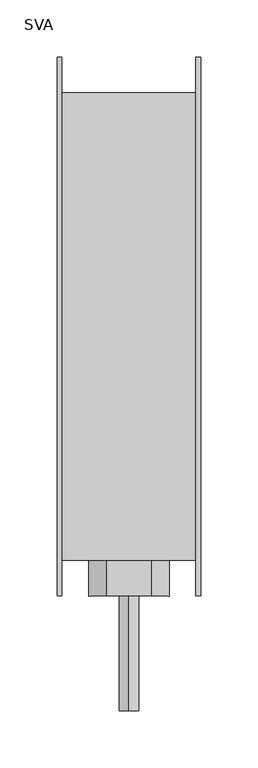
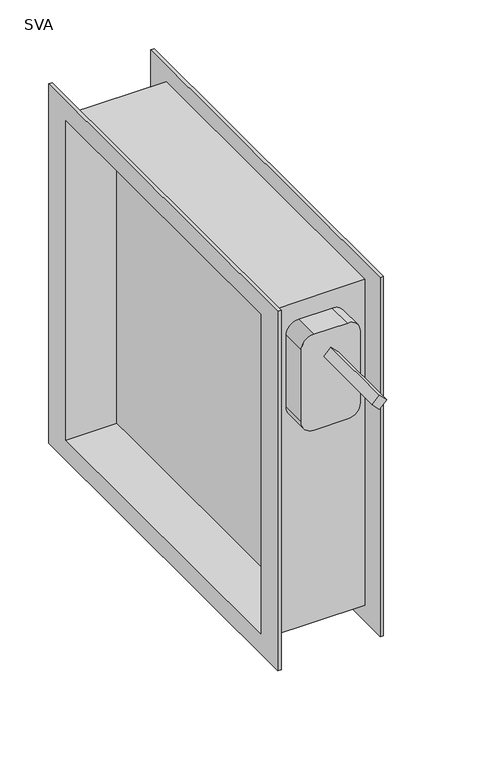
"""IFC4 building model written with IfcOpenShell, lengths in millimetres: damper geometry, СВ_КлапанВоздушный_КанальныйПрямоугольный_200-2400_SVA-E : SVA."""

from ifc_helpers import new_model, si_unit, point, frame, frame_2d, origin, place, context, project, spatial, polyline, circle_curve, trimmed, segment, composite_curve, outline, extrude, faceted_brep, source, transform, mapped, element, save


def sva_4ab12022(model_context):
    return source(origin(), model_context, "Body", "SolidModel", [
        extrude(outline(composite_curve([segment(polyline([(181.4572594, 20.0), (181.4572594, -20.0)]), True, "CONTINUOUS"), segment(trimmed(circle_curve(frame_2d((166.4572594, -20.0)), 15.0), [point((181.4572594, -20.0))], [point((166.4572594, -35.0))], False, "CARTESIAN"), True, "CONTINUOUS"), segment(polyline([(166.4572594, -35.0), (76.4572594, -35.0)]), True, "CONTINUOUS"), segment(trimmed(circle_curve(frame_2d((76.4572594, -20.0)), 15.0), [point((76.4572594, -35.0))], [point((61.4572594, -20.0))], False, "CARTESIAN"), True, "CONTINUOUS"), segment(polyline([(61.4572594, -20.0), (61.4572594, 20.0)]), True, "CONTINUOUS"), segment(trimmed(circle_curve(frame_2d((76.4572594, 20.0)), 15.0), [point((61.4572594, 20.0))], [point((76.4572594, 35.0))], False, "CARTESIAN"), True, "CONTINUOUS"), segment(polyline([(76.4572594, 35.0), (166.4572594, 35.0)]), True, "CONTINUOUS"), segment(trimmed(circle_curve(frame_2d((166.4572594, 20.0)), 15.0), [point((166.4572594, 35.0))], [point((181.4572594, 20.0))], False, "CARTESIAN"), True, "CONTINUOUS")], self_intersect=False)), frame((0.0, -235.0, 0.0), z_axis=(0.0, 1.0, 0.0), x_axis=(0.0, 0.0, 1.0)), (0.0, 0.0, 1.0), 31.0),
        extrude(outline(polyline([(0.0, -12.0), (0.0, 0.0), (100.0, 0.0), (100.0, -12.0), (0.0, -12.0)])), frame((0.0, -235.0, 141.5147186), z_axis=(0.7071067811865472, 0.0, 0.7071067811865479), x_axis=(0.0, -1.0, 0.0)), (0.0, 0.0, 1.0), 12.0),
        extrude(outline(polyline([(-2.0, -200.0), (-2.0, 200.0), (2.0, 200.0), (2.0, -200.0), (-2.0, -200.0)])), frame((0.0, 0.0, -200.0), z_axis=(0.0, 0.0, 1.0), x_axis=(1.0, 0.0, 0.0)), (0.0, 0.0, 1.0), 400.0),
        faceted_brep([(-62.5, 200.0, 200.0), (-62.5, 200.0, -200.0), (62.5, 200.0, -200.0), (62.5, 200.0, 200.0), (-62.5, -200.0, -200.0), (62.5, -200.0, -200.0), (-62.5, -200.0, 200.0), (62.5, -200.0, 200.0), (58.5, -204.0, 204.0), (-58.5, -204.0, 204.0), (-58.5, -204.0, -204.0), (58.5, -204.0, -204.0), (-58.5, 204.0, -204.0), (58.5, 204.0, -204.0), (-58.5, 204.0, 204.0), (58.5, 204.0, 204.0), (-62.5, -235.0, 225.0), (-62.5, 235.0, 225.0), (-62.5, 235.0, -225.0), (-62.5, -235.0, -225.0), (-58.5, -235.0, 225.0), (-58.5, -235.0, -225.0), (-58.5, 235.0, -225.0), (-58.5, 235.0, 225.0), (58.5, 235.0, 225.0), (58.5, 235.0, -225.0), (58.5, -235.0, -225.0), (58.5, -235.0, 225.0), (62.5, 235.0, 225.0), (62.5, -235.0, 225.0), (62.5, -235.0, -225.0), (62.5, 235.0, -225.0)], [[[0, 1, 2, 3]], [[2, 1, 4, 5]], [[5, 4, 6, 7]], [[7, 6, 0, 3]], [[8, 9, 10, 11]], [[11, 10, 12, 13]], [[13, 12, 14, 15]], [[9, 8, 15, 14]], [[16, 17, 18, 19], [6, 4, 1, 0]], [[20, 21, 22, 23], [10, 9, 14, 12]], [[16, 19, 21, 20]], [[19, 18, 22, 21]], [[18, 17, 23, 22]], [[17, 16, 20, 23]], [[24, 25, 26, 27], [8, 11, 13, 15]], [[28, 29, 30, 31], [3, 2, 5, 7]], [[24, 27, 29, 28]], [[27, 26, 30, 29]], [[26, 25, 31, 30]], [[25, 24, 28, 31]]]),
    ])


if __name__ == "__main__":
    model = new_model("IFC4")
    model_context = context("Model", 3, world=origin())
    ifc_project = project(units=[si_unit("LENGTHUNIT", "METRE", prefix="MILLI")], contexts=[model_context])
    site = spatial("IfcSite", under=ifc_project)
    building = spatial("IfcBuilding", under=site)
    placement = place(None, origin())
    sva_shape = sva_4ab12022(model_context)
    element("IfcDamper", 1, ObjectType="СВ_КлапанВоздушный_КанальныйПрямоугольный_200-2400_SVA-E : SVA", at=placement, inside=building, context=model_context, shape_type="MappedRepresentation", body=[
        mapped(sva_shape, transform((0.0, 0.0, 0.0), x_axis=(1.0, 0.0, 0.0), y_axis=(0.0, 1.0, 0.0), z_axis=(0.0, 0.0, 1.0))),
    ])
    save(model, "model.ifc")
